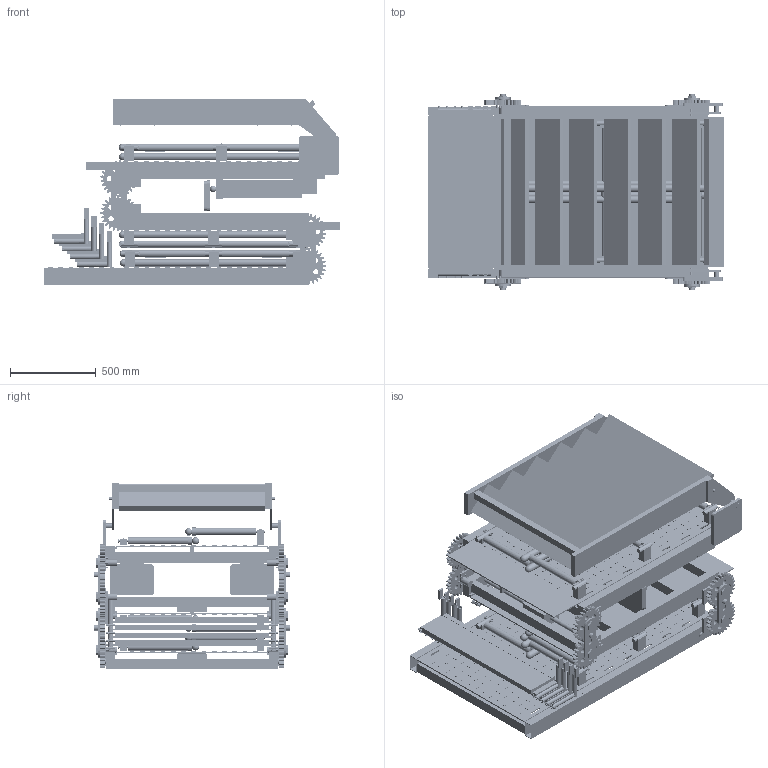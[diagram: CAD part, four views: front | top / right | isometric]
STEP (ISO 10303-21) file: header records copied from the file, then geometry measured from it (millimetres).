
FILE_DESCRIPTION(('Open CASCADE Model'),'2;1');
FILE_NAME('Open CASCADE Shape Model','2026-11-24T20:12:58',('Author'),( 'Open CASCADE'),'Open CASCADE STEP processor 7.9','Open CASCADE 7.9' ,'Unknown');
FILE_SCHEMA(('AUTOMOTIVE_DESIGN { 1 0 10303 214 1 1 1 1 }'));
Length unit declared in the file: centimetre
Products named in the file (412): AKORA_C06_PLATFORM_FOLDED; 03_PLATFORM_SYSTEM; PLATFORM_01; P1_DECK; P1_DECK_ANTISLIP_PATTERN; PLATFORM_02; P2_DECK; P2_DECK_ANTISLIP_PATTERN; PLATFORM_DRIVE_LINKS; J1_LINK_PLATE_L; J1_LINK_PLATE_R; J1_GEARMOTOR; J1_DRIVE_SHAFT; J2_LINK_PLATE_L; J2_LINK_PLATE_R; J2_GEARMOTOR; J2_DRIVE_SHAFT; PLATFORM_EXTENSION; P3_DECK; P3_DECK_ANTISLIP_PATTERN; PLATFORM_FRAME; P1_SIDE_PROFILE_L; P1_DECK_LEDGE_L; P1_SIDE_PROFILE_R; P1_DECK_LEDGE_R; P1_CROSS_MEMBER_1; P1_CROSS_MEMBER_2; P1_CROSS_MEMBER_3; P1_CROSS_MEMBER_4; P1_CROSS_MEMBER_5; P1_PROFILE_CAP_LA; P1_PROFILE_CAP_LB; P1_PROFILE_CAP_RA; P1_PROFILE_CAP_RB; P2_SIDE_PROFILE_L; P2_DECK_LEDGE_L; P2_SIDE_PROFILE_R; P2_DECK_LEDGE_R; P2_CROSS_MEMBER_1; P2_CROSS_MEMBER_2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
Assembly tree (411 placements, depth 4):
  AKORA_C06_PLATFORM_FOLDED
    03_PLATFORM_SYSTEM
      PLATFORM_01
        P1_DECK
        P1_DECK_ANTISLIP_PATTERN
      PLATFORM_02
        P2_DECK
        P2_DECK_ANTISLIP_PATTERN
      PLATFORM_DRIVE_LINKS
        J1_LINK_PLATE_L
        J1_LINK_PLATE_R
        J1_GEARMOTOR
        J1_DRIVE_SHAFT
        J2_LINK_PLATE_L
        J2_LINK_PLATE_R
        J2_GEARMOTOR
        J2_DRIVE_SHAFT
      PLATFORM_EXTENSION
        P3_DECK
        P3_DECK_ANTISLIP_PATTERN
      PLATFORM_FRAME
        P1_SIDE_PROFILE_L
        P1_DECK_LEDGE_L
        P1_SIDE_PROFILE_R
        P1_DECK_LEDGE_R
        P1_CROSS_MEMBER_1
        P1_CROSS_MEMBER_2
        P1_CROSS_MEMBER_3
        P1_CROSS_MEMBER_4
        P1_CROSS_MEMBER_5
        P1_PROFILE_CAP_LA
        P1_PROFILE_CAP_LB
        P1_PROFILE_CAP_RA
        P1_PROFILE_CAP_RB
        P2_SIDE_PROFILE_L
        P2_DECK_LEDGE_L
        P2_SIDE_PROFILE_R
        P2_DECK_LEDGE_R
        P2_CROSS_MEMBER_1
        P2_CROSS_MEMBER_2
        P2_CROSS_MEMBER_3
        P2_CROSS_MEMBER_4
        P2_CROSS_MEMBER_5
        P2_PROFILE_CAP_LA
        P2_PROFILE_CAP_LB
        P2_PROFILE_CAP_RA
        P2_PROFILE_CAP_RB
        P3_SIDE_PROFILE_L
        P3_DECK_LEDGE_L
        P3_SIDE_PROFILE_R
        P3_DECK_LEDGE_R
        P3_CROSS_MEMBER_1
        P3_CROSS_MEMBER_2
        P3_CROSS_MEMBER_3
        P3_CROSS_MEMBER_4
        P3_CROSS_MEMBER_5
        P3_PROFILE_CAP_LA
        P3_PROFILE_CAP_LB
        P3_PROFILE_CAP_RA
        P3_PROFILE_CAP_RB
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Bounding box: 1735 x 1148 x 1084.91 mm (x, y, z)
Volume: 138735672 mm3; surface area: 37488367.4 mm2
Topology: 1197 solids, 1197 shells, 11974 faces, 28616 edges, 19078 vertices
Faces by surface type: plane 11034, cylinder 926, sphere 14
Full cylindrical faces by diameter (mm): 10 x128, 12 x28, 16 x12, 17 x8, 18 x4, 22 x2, 24 x24, 25 x16, 28 x18, 30 x52, 30.6 x40, 32 x4, 34 x36, 36 x2, 37 x54, 40 x24, 41 x8, 42 x54, 48 x20
Entity records: 760328 total; most frequent: CARTESIAN_POINT 155274, DIRECTION 109936, LINE 79890, VECTOR 79890, ORIENTED_EDGE 57196, PCURVE 57180, DEFINITIONAL_REPRESENTATION 57180, EDGE_CURVE 28590
